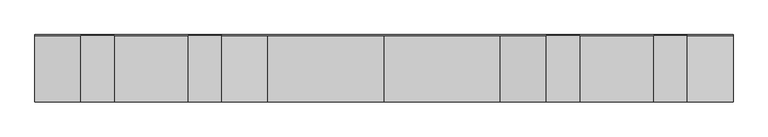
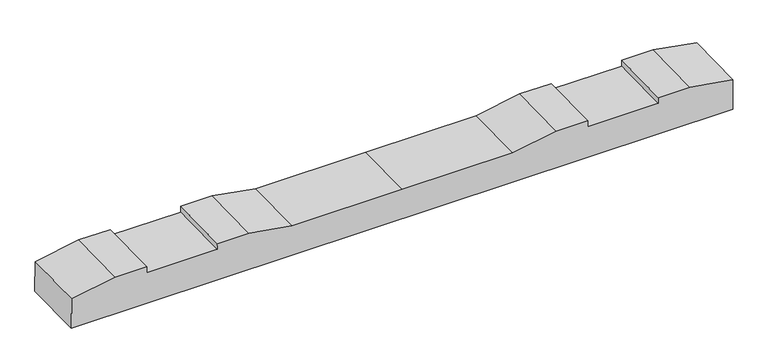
"""IFC4 building model written with IfcOpenShell, lengths in millimetres: proxy geometry, 轨枕-立面角度 : 轨枕-立面角度."""

from ifc_helpers import new_model, si_unit, frame, origin, place, context, project, spatial, polyline, outline, extrude, source, transform, mapped, element, save


def generic_models_d64c65d5(model_context):
    return source(origin(), model_context, "Body", "SweptSolid", [
        extrude(outline(polyline([(0.0, 0.0), (2099.7669328, 0.0), (2099.7669328, -100.020689), (1961.8834664, -124.5), (1861.8834664, -124.5), (1861.8834664, -104.5), (1637.8834664, -104.5), (1637.8834664, -124.5), (1537.8834664, -124.5), (1399.8834664, -100.0), (1049.8834664, -100.0), (699.8834664, -100.0), (561.8834664, -124.5), (461.8834664, -124.5), (461.8834664, -104.5), (237.8834664, -104.5), (237.8834664, -124.5), (137.8834664, -124.5), (0.0, -100.020689), (0.0, 0.0)])), frame((-1049.8834664, -97.8437999, -106.521551), z_axis=(0.0, 0.9997912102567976, 0.020433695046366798), x_axis=(1.0, 0.0, 0.0)), (0.0, 0.0, 1.0), 200.0),
    ])


if __name__ == "__main__":
    model = new_model("IFC4")
    model_context = context("Model", 3, world=origin())
    ifc_project = project(units=[si_unit("LENGTHUNIT", "METRE", prefix="MILLI")], contexts=[model_context])
    site = spatial("IfcSite", under=ifc_project)
    building = spatial("IfcBuilding", under=site)
    placement = place(None, origin())
    generic_models_shape = generic_models_d64c65d5(model_context)
    element("IfcBuildingElementProxy", 1, Name="轨枕-立面角度 : 轨枕-立面角度", ObjectType="轨枕-立面角度 : 轨枕-立面角度", at=placement, inside=building, context=model_context, shape_type="MappedRepresentation", body=[
        mapped(generic_models_shape, transform((0.0, 0.0, 0.0), x_axis=(1.0, 0.0, 0.0), y_axis=(0.0, 1.0, 0.0), z_axis=(0.0, 0.0, 1.0))),
    ])
    save(model, "model.ifc")
